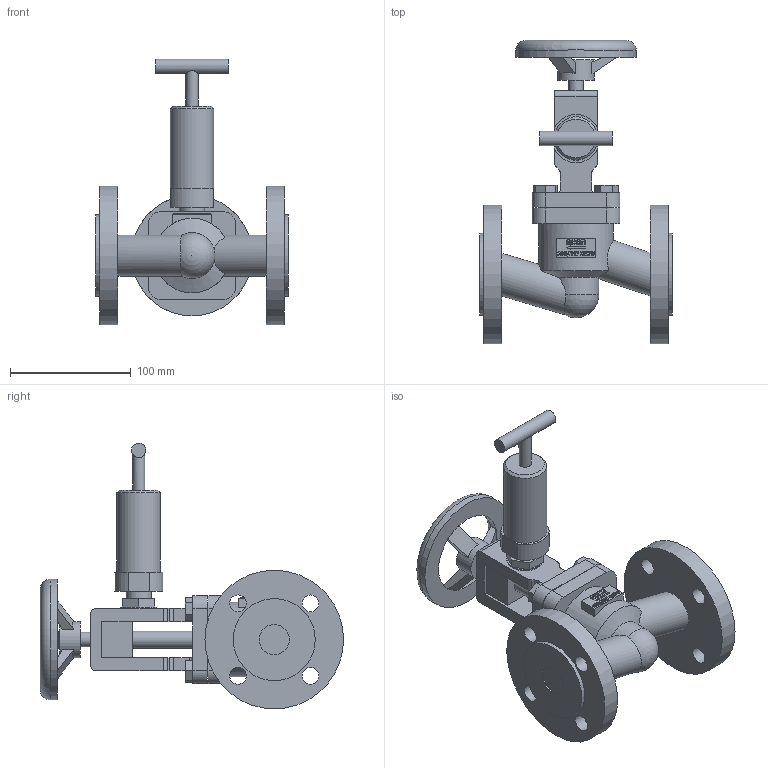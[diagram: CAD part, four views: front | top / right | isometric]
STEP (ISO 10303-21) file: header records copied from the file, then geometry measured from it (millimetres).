
FILE_DESCRIPTION(/* description */ (''),/* implementation_level */ '2;1');
FILE_NAME(/* name */ '100-247HP-DN25-PN16.stp',/* time_stamp */ '2024-07-08T21:36:01+02:00',/* author */ ('roger.thijssen'),/* organization */ (''),/* preprocessor_version */ 'ST-DEVELOPER v20',/* originating_system */ 'Autodesk Inventor 2024',/* authorisation */ '');
FILE_SCHEMA (('AUTOMOTIVE_DESIGN { 1 0 10303 214 3 1 1 }'));
Length unit declared in the file: millimetre
Products named in the file (1): 100-247HP-DN25-PN16
Bounding box: 160 x 251.5 x 220.5 mm (x, y, z)
Volume: 968552.7 mm3; surface area: 151026.4 mm2
Topology: 1 solids, 1 shells, 392 faces, 1045 edges, 692 vertices
Faces by surface type: plane 251, cylinder 71, bspline 65, cone 3, torus 1, sphere 1
Full cylindrical faces by diameter (mm): 10 x1, 12 x2, 14 x9, 21 x1, 25 x2, 30 x2, 34 x2, 36 x1, 56 x1, 62 x1, 68 x2, 100 x1, 115 x2
Entity records: 13403 total; most frequent: CARTESIAN_POINT 3392, ORIENTED_EDGE 2088, DIRECTION 1731, EDGE_CURVE 1044, LINE 715, VECTOR 715, VERTEX_POINT 692, AXIS2_PLACEMENT_3D 508
